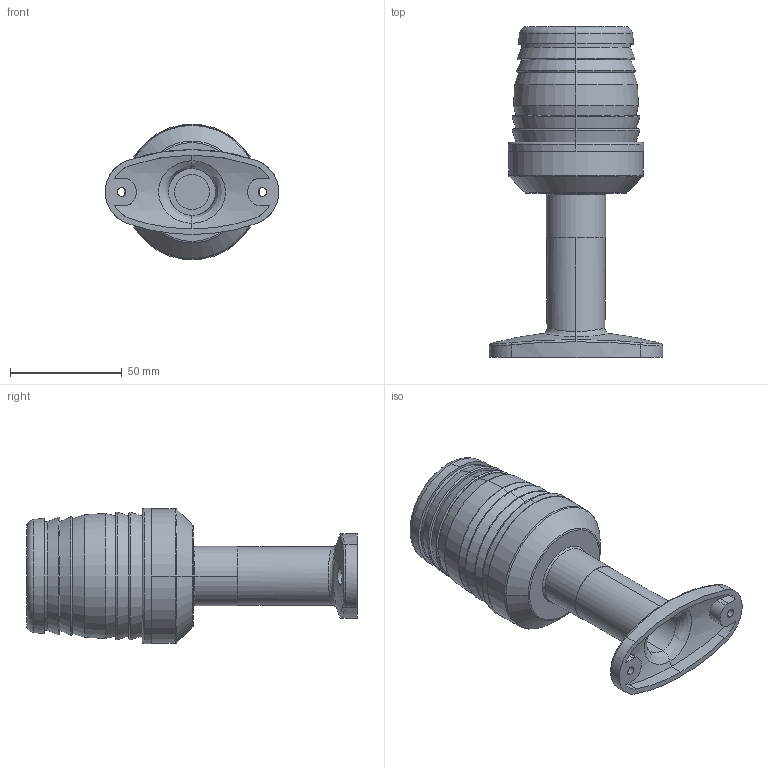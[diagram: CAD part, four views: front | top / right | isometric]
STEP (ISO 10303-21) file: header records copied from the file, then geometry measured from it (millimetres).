
FILE_DESCRIPTION (( 'STEP AP203' ), '1' );
FILE_NAME ('11.132.88.STEP', '2021-03-29T14:18:56', ( '' ), ( '' ), 'SwSTEP 2.0', 'SolidWorks 2014', '' );
FILE_SCHEMA (( 'CONFIG_CONTROL_DESIGN' ));
Length unit declared in the file: millimetre
Products named in the file (4): 11.132.88; OPL11-0233; OPL11-0043_BasettaCodulo20mm_S; OPL11-0038_+_OPL11-0040_Vetro360+CappuccioBianco_S
Assembly tree (3 placements, depth 2):
  11.132.88
    OPL11-0038_+_OPL11-0040_Vetro360+CappuccioBianco_S
    OPL11-0043_BasettaCodulo20mm_S
    OPL11-0233
Bounding box: 77.59 x 148 x 60.7 mm (x, y, z)
Volume: 171064.5 mm3; surface area: 46166.6 mm2
Topology: 3 solids, 3 shells, 133 faces, 288 edges, 175 vertices
Faces by surface type: cylinder 44, cone 27, plane 24, torus 20, bspline 18
Entity records: 6442 total; most frequent: CARTESIAN_POINT 3157, DIRECTION 634, ORIENTED_EDGE 576, EDGE_CURVE 288, AXIS2_PLACEMENT_3D 276, VERTEX_POINT 175, CIRCLE 155, EDGE_LOOP 153
